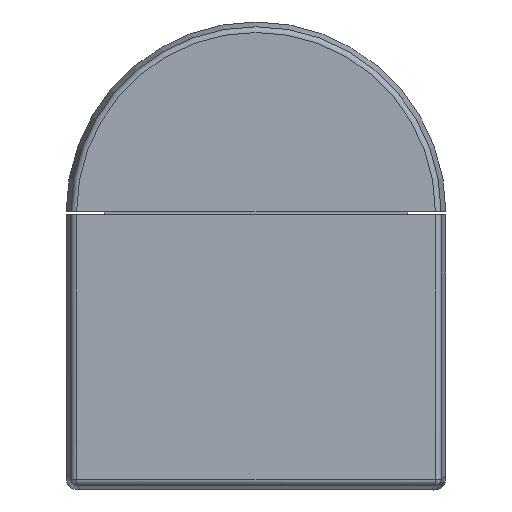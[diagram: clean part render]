
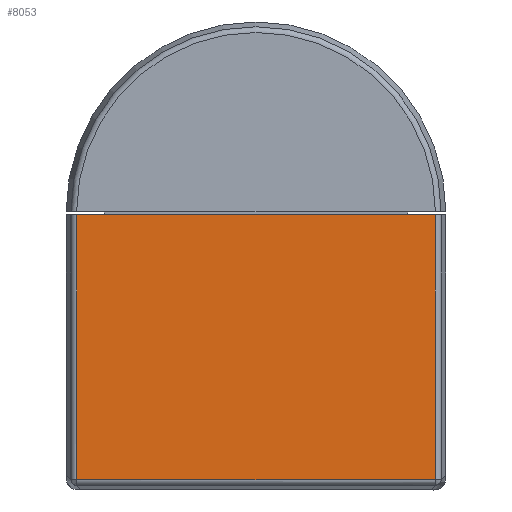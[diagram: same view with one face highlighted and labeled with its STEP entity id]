
A CAD part, front view. The second image highlights one B-rep face of the part: STEP entity #8053.
In plain terms, the highlighted planar face has unit normal (0, -1, 0).
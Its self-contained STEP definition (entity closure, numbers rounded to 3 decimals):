
#977=LINE('',#13509,#1894);
#978=LINE('',#13512,#1895);
#987=LINE('',#13687,#1904);
#1002=LINE('',#13727,#1919);
#1894=VECTOR('',#10551,10.);
#1895=VECTOR('',#10554,10.);
#1904=VECTOR('',#10577,10.);
#1919=VECTOR('',#10612,10.);
#2309=PLANE('',#8656);
#2743=FACE_OUTER_BOUND('',#3193,.T.);
#3193=EDGE_LOOP('',(#7381,#7382,#7383,#7384));
#4057=VERTEX_POINT('',#13482);
#4060=VERTEX_POINT('',#13503);
#4061=VERTEX_POINT('',#13511);
#4072=VERTEX_POINT('',#13685);
#5163=EDGE_CURVE('',#4057,#4060,#977,.T.);
#5164=EDGE_CURVE('',#4061,#4057,#978,.T.);
#5182=EDGE_CURVE('',#4060,#4072,#987,.T.);
#5202=EDGE_CURVE('',#4072,#4061,#1002,.T.);
#7381=ORIENTED_EDGE('',*,*,#5164,.T.);
#7382=ORIENTED_EDGE('',*,*,#5163,.T.);
#7383=ORIENTED_EDGE('',*,*,#5182,.T.);
#7384=ORIENTED_EDGE('',*,*,#5202,.T.);
#8053=ADVANCED_FACE('',(#2743),#2309,.F.);
#8656=AXIS2_PLACEMENT_3D('',#13726,#10610,#10611);
#10551=DIRECTION('',(1.,0.,0.));
#10554=DIRECTION('',(0.,0.,-1.));
#10577=DIRECTION('',(0.,0.,1.));
#10610=DIRECTION('center_axis',(0.,1.,0.));
#10611=DIRECTION('ref_axis',(1.,0.,0.));
#10612=DIRECTION('',(-1.,0.,0.));
#13482=CARTESIAN_POINT('',(169.531,-84.,-45.469));
#13503=CARTESIAN_POINT('',(230.469,-84.,-45.469));
#13509=CARTESIAN_POINT('',(191.938,-84.,-45.469));
#13511=CARTESIAN_POINT('',(169.531,-84.,-0.5));
#13512=CARTESIAN_POINT('',(169.531,-84.,-5.75));
#13685=CARTESIAN_POINT('',(230.469,-84.,-0.5));
#13687=CARTESIAN_POINT('',(230.469,-84.,-17.438));
#13726=CARTESIAN_POINT('Origin',(200.,-84.,-7.5));
#13727=CARTESIAN_POINT('',(216.125,-84.,-0.5));
